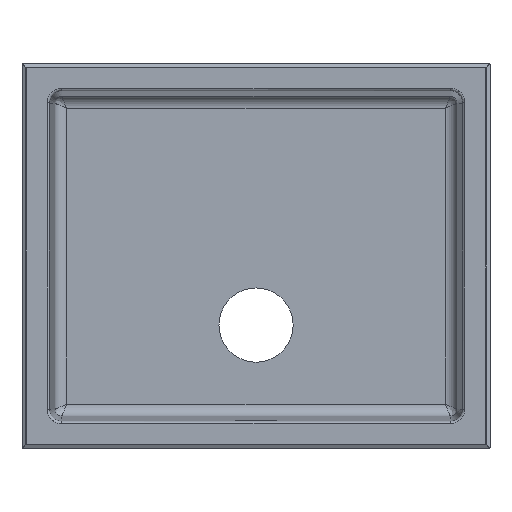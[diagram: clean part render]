
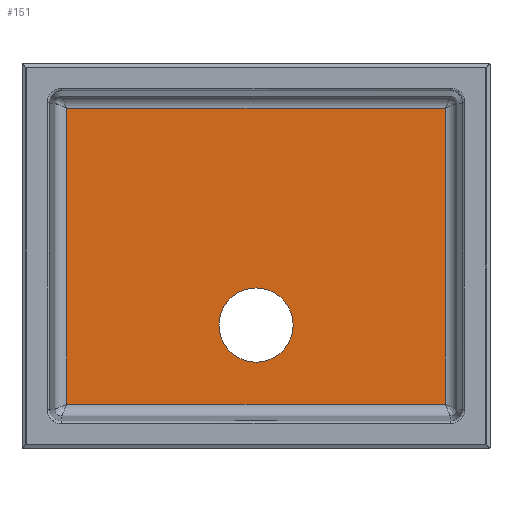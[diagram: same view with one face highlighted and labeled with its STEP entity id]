
A CAD part, top view. The second image highlights one B-rep face of the part: STEP entity #151.
In plain terms, the highlighted planar face has unit normal (0, 0, 1).
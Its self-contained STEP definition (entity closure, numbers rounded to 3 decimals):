
#69=CARTESIAN_POINT('Vertex',(-45.,150.,-194.1)) ;
#72=CARTESIAN_POINT('Axis2P3D Location',(0.,150.,-194.1)) ;
#76=CARTESIAN_POINT('Vertex',(45.,150.,-194.1)) ;
#96=CARTESIAN_POINT('Axis2P3D Location',(0.,150.,-194.1)) ;
#108=CARTESIAN_POINT('Axis2P3D Location',(-235.554,32.924,-194.1)) ;
#113=CARTESIAN_POINT('Line Origine',(-235.554,54.219,-194.1)) ;
#117=CARTESIAN_POINT('Vertex',(229.151,54.219,-194.1)) ;
#119=CARTESIAN_POINT('Vertex',(-229.259,54.219,-194.1)) ;
#122=CARTESIAN_POINT('Line Origine',(229.151,32.924,-194.1)) ;
#126=CARTESIAN_POINT('Vertex',(229.151,412.629,-194.1)) ;
#129=CARTESIAN_POINT('Line Origine',(-235.554,412.629,-194.1)) ;
#133=CARTESIAN_POINT('Vertex',(-229.259,412.629,-194.1)) ;
#136=CARTESIAN_POINT('Line Origine',(-229.259,32.924,-194.1)) ;
#73=DIRECTION('Axis2P3D Direction',(0.,-0.,1.)) ;
#97=DIRECTION('Axis2P3D Direction',(0.,-0.,1.)) ;
#109=DIRECTION('Axis2P3D Direction',(0.,0.,-1.)) ;
#110=DIRECTION('Axis2P3D XDirection',(1.,0.,0.)) ;
#114=DIRECTION('Vector Direction',(1.,0.,0.)) ;
#123=DIRECTION('Vector Direction',(0.,-1.,0.)) ;
#130=DIRECTION('Vector Direction',(1.,0.,0.)) ;
#137=DIRECTION('Vector Direction',(0.,-1.,0.)) ;
#74=AXIS2_PLACEMENT_3D('Circle Axis2P3D',#72,#73,$) ;
#98=AXIS2_PLACEMENT_3D('Circle Axis2P3D',#96,#97,$) ;
#111=AXIS2_PLACEMENT_3D('Plane Axis2P3D',#108,#109,#110) ;
#142=ORIENTED_EDGE('',*,*,#121,.F.) ;
#143=ORIENTED_EDGE('',*,*,#128,.F.) ;
#144=ORIENTED_EDGE('',*,*,#135,.F.) ;
#145=ORIENTED_EDGE('',*,*,#140,.F.) ;
#148=ORIENTED_EDGE('',*,*,#78,.F.) ;
#149=ORIENTED_EDGE('',*,*,#100,.F.) ;
#150=FACE_BOUND('',#147,.T.) ;
#115=VECTOR('Line Direction',#114,1.) ;
#124=VECTOR('Line Direction',#123,1.) ;
#131=VECTOR('Line Direction',#130,1.) ;
#138=VECTOR('Line Direction',#137,1.) ;
#151=ADVANCED_FACE('Mira',(#146,#150),#112,.F.) ;
#75=CIRCLE('generated circle',#74,45.) ;
#99=CIRCLE('generated circle',#98,45.) ;
#78=EDGE_CURVE('',#70,#77,#75,.T.) ;
#100=EDGE_CURVE('',#77,#70,#99,.T.) ;
#121=EDGE_CURVE('',#118,#120,#116,.F.) ;
#128=EDGE_CURVE('',#127,#118,#125,.T.) ;
#135=EDGE_CURVE('',#134,#127,#132,.T.) ;
#140=EDGE_CURVE('',#120,#134,#139,.F.) ;
#141=EDGE_LOOP('',(#142,#143,#144,#145)) ;
#147=EDGE_LOOP('',(#148,#149)) ;
#146=FACE_OUTER_BOUND('',#141,.T.) ;
#116=LINE('Line',#113,#115) ;
#125=LINE('Line',#122,#124) ;
#132=LINE('Line',#129,#131) ;
#139=LINE('Line',#136,#138) ;
#112=PLANE('',#111) ;
#70=VERTEX_POINT('',#69) ;
#77=VERTEX_POINT('',#76) ;
#118=VERTEX_POINT('',#117) ;
#120=VERTEX_POINT('',#119) ;
#127=VERTEX_POINT('',#126) ;
#134=VERTEX_POINT('',#133) ;
